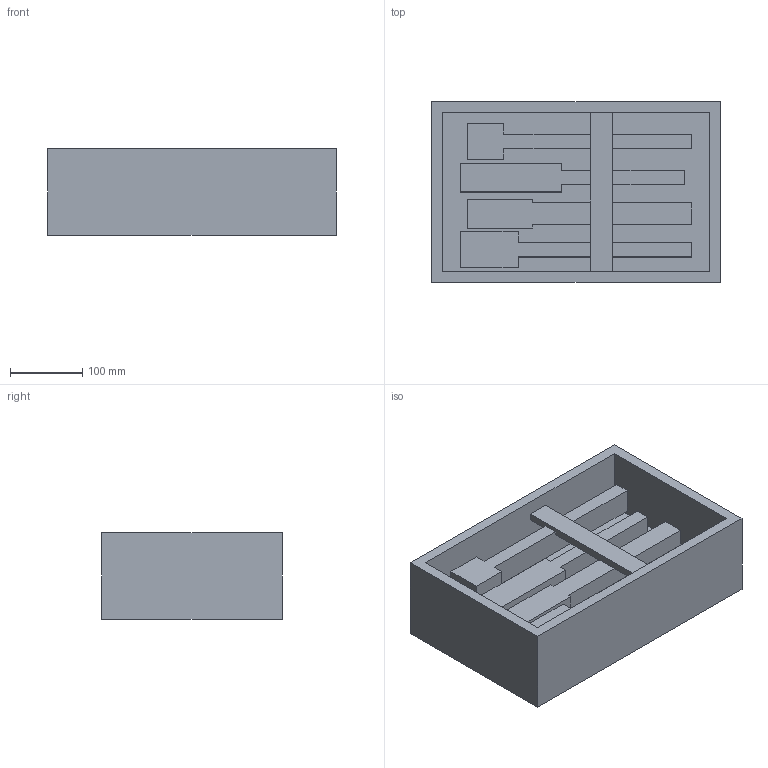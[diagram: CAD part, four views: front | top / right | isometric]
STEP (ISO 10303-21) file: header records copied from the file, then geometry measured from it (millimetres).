
FILE_DESCRIPTION(/* description */ (''),/* implementation_level */ '2;1');
FILE_NAME(/* name */ 'geo_tools.step',/* time_stamp */ '2026-11-14T21:11:01+01:00',/* author */ ('malgo'),/* organization */ (''),/* preprocessor_version */ 'ST-DEVELOPER v20.1',/* originating_system */ 'Autodesk Inventor 2026',/* authorisation */ '');
FILE_SCHEMA (('AUTOMOTIVE_DESIGN { 1 0 10303 214 3 1 1 }'));
Length unit declared in the file: metre
Products named in the file (1): geo_tools
Bounding box: 400 x 250 x 120 mm (x, y, z)
Volume: 5795500 mm3; surface area: 634800 mm2
Topology: 4 solids, 4 shells, 57 faces, 144 edges, 96 vertices
Faces by surface type: plane 57
Entity records: 1716 total; most frequent: CARTESIAN_POINT 298, ORIENTED_EDGE 288, DIRECTION 260, LINE 144, VECTOR 144, EDGE_CURVE 144, VERTEX_POINT 96, EDGE_LOOP 60
